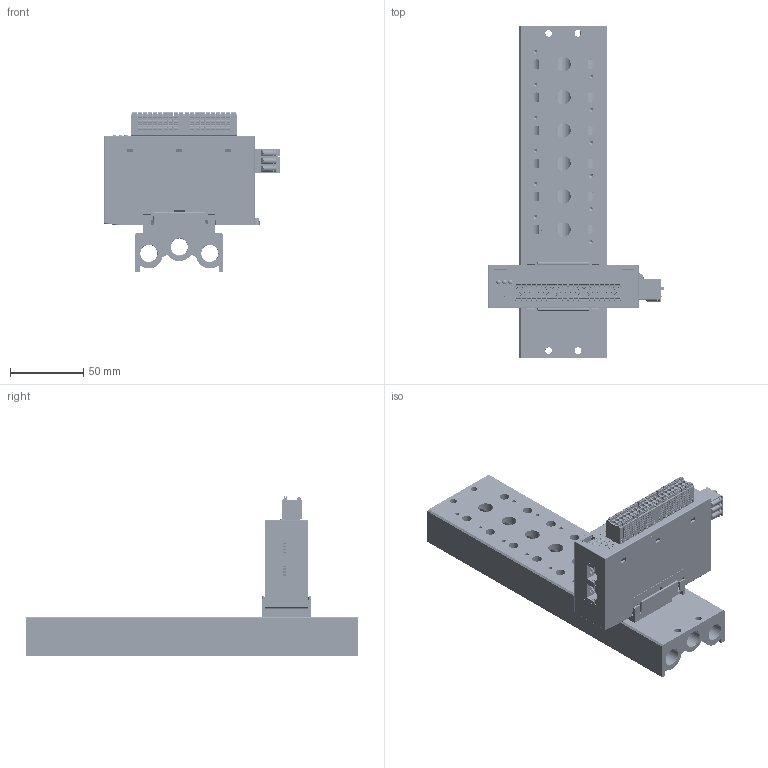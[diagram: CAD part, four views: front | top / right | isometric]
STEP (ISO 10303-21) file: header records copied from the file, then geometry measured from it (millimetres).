
FILE_DESCRIPTION(/* description */ (''),/* implementation_level */ '2;1');
FILE_NAME(/* name */ '',/* time_stamp */ '2025-10-09T16:05:29+08:00',/* author */ (''),/* organization */ (''),/* preprocessor_version */ 'ST-DEVELOPER v14',/* originating_system */ 'SIEMENS PLM Software NX 8.0',/* authorisation */ '');
FILE_SCHEMA (('AP203_CONFIGURATION_CONTROLLED_3D_DESIGN_OF_MECHANICAL_PARTS_AND_ASSEMBLIES_MIM_LF { 1 0 10303 403 2 1 2}'));
Products named in the file (1): DELL3E5857E9ucem
Bounding box: 119.8 x 226 x 108.48 mm (x, y, z)
Volume: 406134.3 mm3; surface area: 129425.9 mm2
Topology: 2 solids, 227 shells, 9907 faces, 26244 edges, 17088 vertices
Faces by surface type: plane 6471, cylinder 2267, bspline 340, torus 336, cone 214, extrusion 184, sphere 95
Full cylindrical faces by diameter (mm): 0.18 x2, 2.5 x17, 3.05 x40, 3.3 x3, 3.5 x4, 4 x4, 4.5 x4, 6 x4, 6.5 x12, 9.6 x1, 10 x6, 11.5 x5, 11.8 x6
Entity records: 327502 total; most frequent: CARTESIAN_POINT 83978, ORIENTED_EDGE 51448, DIRECTION 48414, EDGE_CURVE 25724, VECTOR 18346, LINE 18162, VERTEX_POINT 16954, AXIS2_PLACEMENT_3D 15034
